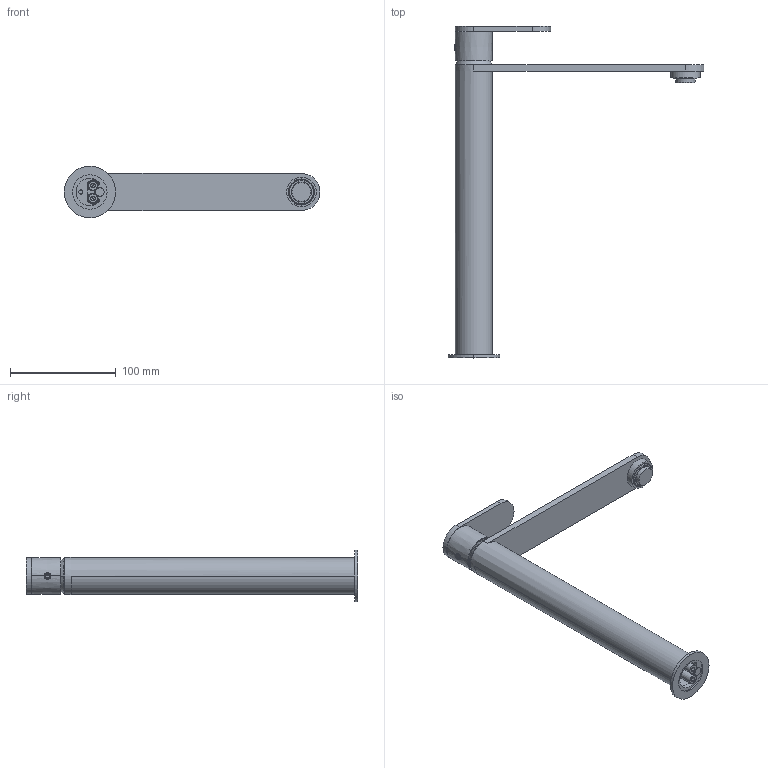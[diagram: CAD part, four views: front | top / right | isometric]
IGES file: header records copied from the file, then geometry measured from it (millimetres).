
Start section:  PTC IGES file: 79065.igs
Global section: file name: 79065.igs; native system: Creo Parametric by PTC Inc.; preprocessor: 2025443; author: carloff; organization: Unknown; date: 20261005.141937; units: millimetre
Bounding box: 241.9 x 313.74 x 48.8 mm (x, y, z)
Surface area: 137845.9 mm2 (no closed solid volume)
Topology: 0 solids, 0 shells, 1166 faces, 5805 edges, 5734 vertices
Faces by surface type: revolution 789, bspline 377
